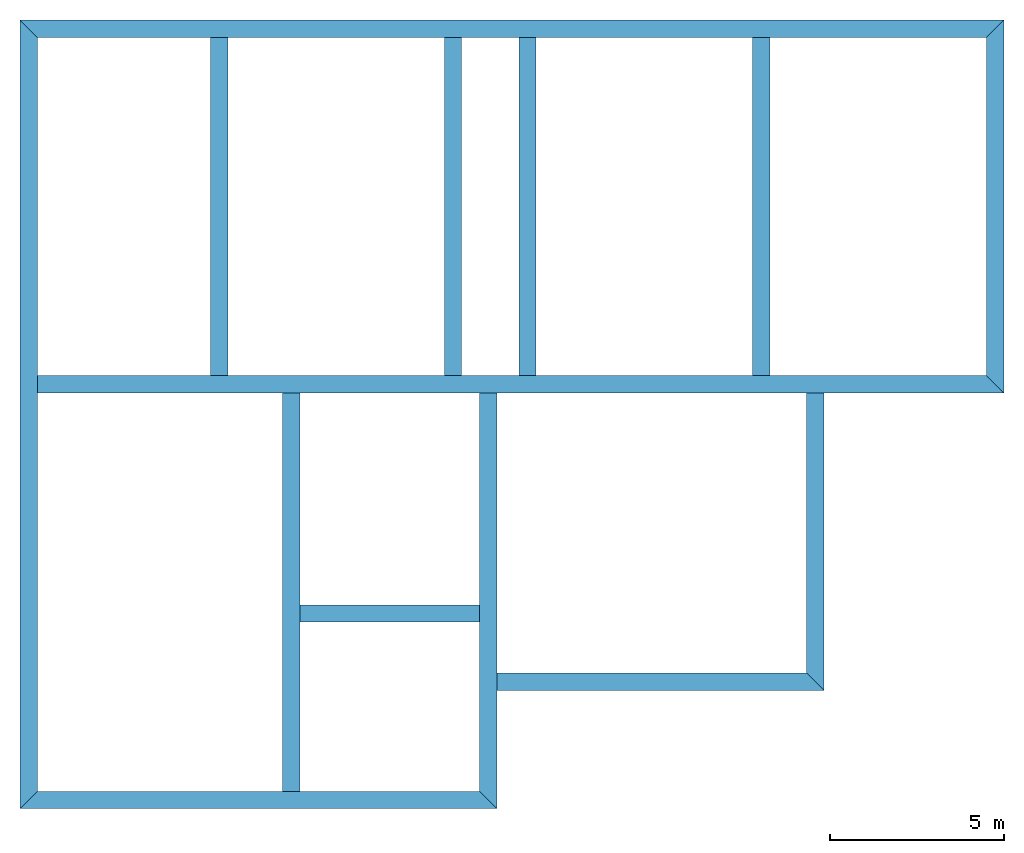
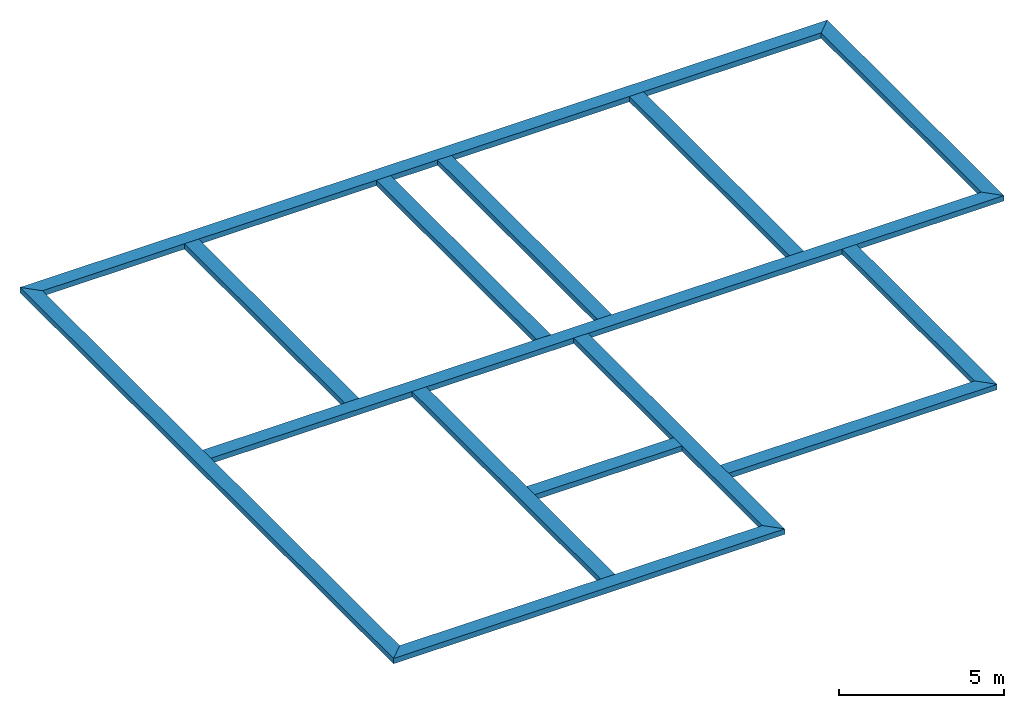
# One storey: 14 walls.
"""IFC2X3 building model written with IfcOpenShell, lengths in metres."""

from ifc_helpers import new_model, entity, si_unit, converted_unit, derived_unit, money_unit, direction, frame, origin_with_axes, place, context, subcontext, project, spatial, polyline, outline, extrude, material, layer, layer_set, layer_usage, type_object, element, save


model = new_model("IFC2X3")

# Units and contexts
model_context = context("Model", 3, precision=1e-05, world=origin_with_axes(), true_north=direction((0.0, 1.0)))
body_context = subcontext(model_context, "Body", "Model", "MODEL_VIEW")
ifc_project = project(units=[si_unit("LENGTHUNIT", "METRE"), si_unit("AREAUNIT", "SQUARE_METRE"), si_unit("VOLUMEUNIT", "CUBIC_METRE"), converted_unit("PLANEANGLEUNIT", "DEGREE", entity("IfcPlaneAngleMeasure", 0.0174532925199), si_unit("PLANEANGLEUNIT", "RADIAN"), dimensions=[0, 0, 0, 0, 0, 0, 0]), money_unit("CHF"), converted_unit("TIMEUNIT", "Year", entity("IfcTimeMeasure", 31556926.0), si_unit("TIMEUNIT", "SECOND"), dimensions=[0, 0, 1, 0, 0, 0, 0]), si_unit("MASSUNIT", "GRAM", prefix="KILO"), si_unit("THERMODYNAMICTEMPERATUREUNIT", "DEGREE_CELSIUS"), si_unit("LUMINOUSINTENSITYUNIT", "LUMEN"), si_unit("ENERGYUNIT", "JOULE", prefix="MEGA"), derived_unit("THERMALCONDUCTANCEUNIT", [(si_unit("POWERUNIT", "WATT"), 1), (si_unit("LENGTHUNIT", "METRE"), -1), (si_unit("THERMODYNAMICTEMPERATUREUNIT", "KELVIN"), -1)]), derived_unit("SPECIFICHEATCAPACITYUNIT", [(si_unit("ENERGYUNIT", "JOULE"), 1), (si_unit("MASSUNIT", "GRAM", prefix="KILO"), -1), (si_unit("THERMODYNAMICTEMPERATUREUNIT", "KELVIN"), -1)]), derived_unit("MASSDENSITYUNIT", [(si_unit("MASSUNIT", "GRAM", prefix="KILO"), 1), (si_unit("VOLUMEUNIT", "CUBIC_METRE"), -1)])], contexts=[model_context])

# Site, building, storey
site_placement = place(None, origin_with_axes())
site = spatial("IfcSite", under=ifc_project, at=site_placement, Name="Site", CompositionType="ELEMENT")
building_placement = place(site_placement, origin_with_axes())
building = spatial("IfcBuilding", under=site, at=building_placement, Name="Bâtiment", CompositionType="ELEMENT")
storey_placement = place(building_placement, frame((0.0, 0.0, -0.73), z_axis=(0.0, 0.0, 1.0), x_axis=(1.0, 0.0, 0.0)))
storey = spatial("IfcBuildingStorey", under=building, at=storey_placement, Name="Fondations", CompositionType="ELEMENT", Elevation=-0.73)

# Walls
ifc_material = material(Name="Béton armé (Coulé)")
ifc_layer = layer(ifc_material, 0.5, ventilated="UNKNOWN")
ifc_layer_set = layer_set([ifc_layer], Name="Béton armé (Coulé) 0.5")
ifc_layer_usage_1 = layer_usage(ifc_layer_set, "AXIS2", "POSITIVE", -0.25)
wall_type = type_object("IfcWallType", Name="Béton armé (Coulé) 500", PredefinedType="NOTDEFINED")
wall_1_placement = place(storey_placement, frame((11.1494697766, 25.2201256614, 0.0), z_axis=(0.0, 0.0, 1.0), x_axis=(1.0, 0.0, 0.0)))
element("IfcWallStandardCase", 1, at=wall_1_placement, inside=storey, type_object=wall_type, material=ifc_layer_usage_1, Name="MUR_EXT-001", context=body_context, shape_type="SweptSolid", body=[
    extrude(outline(polyline([(0.25, -0.25), (27.52, -0.25), (28.02, 0.25), (-0.25, 0.25), (0.25, -0.25)])), origin_with_axes(), (0.0, 0.0, 1.0), 0.2),
])
ifc_layer_usage_2 = layer_usage(ifc_layer_set, "AXIS2", "POSITIVE", -0.25)
wall_2_placement = place(storey_placement, frame((38.9194697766, 25.2201256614, 0.0), z_axis=(0.0, 0.0, 1.0), x_axis=(0.0, -1.0, 0.0)))
element("IfcWallStandardCase", 2, at=wall_2_placement, inside=storey, type_object=wall_type, material=ifc_layer_usage_2, Name="MUR_EXT-002", context=body_context, shape_type="SweptSolid", body=[
    extrude(outline(polyline([(0.25, -0.25), (9.97012566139, -0.25), (10.4701256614, 0.25), (-0.25, 0.25), (0.25, -0.25)])), origin_with_axes(), (0.0, 0.0, 1.0), 0.2),
])
ifc_layer_usage_3 = layer_usage(ifc_layer_set, "AXIS2", "POSITIVE", -0.25)
wall_3_placement = place(storey_placement, frame((38.9194697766, 15.0, 0.0), z_axis=(0.0, 0.0, 1.0), x_axis=(-1.0, 0.0, 0.0)))
element("IfcWallStandardCase", 3, at=wall_3_placement, inside=storey, type_object=wall_type, material=ifc_layer_usage_3, Name="MUR_EXT-003", context=body_context, shape_type="SweptSolid", body=[
    extrude(outline(polyline([(0.25, -0.25), (27.52, -0.25), (27.52, 0.25), (-0.25, 0.25), (0.25, -0.25)])), origin_with_axes(), (0.0, 0.0, 1.0), 0.2),
])
ifc_layer_usage_4 = layer_usage(ifc_layer_set, "AXIS2", "POSITIVE", -0.25)
wall_4_placement = place(storey_placement, frame((33.7494697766, 15.0, 0.0), z_axis=(0.0, 0.0, 1.0), x_axis=(0.0, -1.0, 0.0)))
element("IfcWallStandardCase", 4, at=wall_4_placement, inside=storey, type_object=wall_type, material=ifc_layer_usage_4, Name="MUR_EXT-004", context=body_context, shape_type="SweptSolid", body=[
    extrude(outline(polyline([(0.25, -0.25), (8.28987433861, -0.25), (8.78987433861, 0.25), (0.25, 0.25), (0.25, -0.25)])), origin_with_axes(), (0.0, 0.0, 1.0), 0.2),
])
ifc_layer_usage_5 = layer_usage(ifc_layer_set, "AXIS2", "POSITIVE", -0.25)
wall_5_placement = place(storey_placement, frame((33.7494697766, 6.46012566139, 0.0), z_axis=(0.0, 0.0, 1.0), x_axis=(-1.0, 0.0, 0.0)))
element("IfcWallStandardCase", 5, at=wall_5_placement, inside=storey, type_object=wall_type, material=ifc_layer_usage_5, Name="MUR_EXT-005", context=body_context, shape_type="SweptSolid", body=[
    extrude(outline(polyline([(0.25, -0.25), (9.15, -0.25), (9.15, 0.25), (-0.25, 0.25), (0.25, -0.25)])), origin_with_axes(), (0.0, 0.0, 1.0), 0.2),
])
ifc_layer_usage_6 = layer_usage(ifc_layer_set, "AXIS2", "POSITIVE", -0.25)
wall_6_placement = place(storey_placement, frame((24.3494697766, 15.0, 0.0), z_axis=(0.0, 0.0, 1.0), x_axis=(0.0, -1.0, 0.0)))
element("IfcWallStandardCase", 6, at=wall_6_placement, inside=storey, type_object=wall_type, material=ifc_layer_usage_6, Name="MUR_EXT-006", context=body_context, shape_type="SweptSolid", body=[
    extrude(outline(polyline([(0.25, -0.25), (11.6898344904, -0.25), (12.1898344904, 0.25), (0.25, 0.25), (0.25, -0.25)])), origin_with_axes(), (0.0, 0.0, 1.0), 0.2),
])
ifc_layer_usage_7 = layer_usage(ifc_layer_set, "AXIS2", "POSITIVE", -0.25)
wall_7_placement = place(storey_placement, frame((24.3494697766, 3.06016550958, 0.0), z_axis=(0.0, 0.0, 1.0), x_axis=(-1.0, 0.0, 0.0)))
element("IfcWallStandardCase", 7, at=wall_7_placement, inside=storey, type_object=wall_type, material=ifc_layer_usage_7, Name="MUR_EXT-007", context=body_context, shape_type="SweptSolid", body=[
    extrude(outline(polyline([(0.25, -0.25), (12.95, -0.25), (13.45, 0.25), (-0.25, 0.25), (0.25, -0.25)])), origin_with_axes(), (0.0, 0.0, 1.0), 0.2),
])
ifc_layer_usage_8 = layer_usage(ifc_layer_set, "AXIS2", "POSITIVE", -0.25)
wall_8_placement = place(storey_placement, frame((11.1494697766, 3.06016550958, 0.0), z_axis=(0.0, 0.0, 1.0), x_axis=(0.0, 1.0, 0.0)))
element("IfcWallStandardCase", 8, at=wall_8_placement, inside=storey, type_object=wall_type, material=ifc_layer_usage_8, Name="MUR_EXT-008", context=body_context, shape_type="SweptSolid", body=[
    extrude(outline(polyline([(0.25, -0.25), (21.9099601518, -0.25), (22.4099601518, 0.25), (-0.25, 0.25), (0.25, -0.25)])), origin_with_axes(), (0.0, 0.0, 1.0), 0.2),
])
ifc_layer_usage_9 = layer_usage(ifc_layer_set, "AXIS2", "POSITIVE", -0.25)
wall_9_placement = place(storey_placement, frame((18.6894697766, 3.06016550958, 0.0), z_axis=(0.0, 0.0, 1.0), x_axis=(0.0, 1.0, 0.0)))
element("IfcWallStandardCase", 9, at=wall_9_placement, inside=storey, type_object=wall_type, material=ifc_layer_usage_9, Name="MUR_EXT-007", context=body_context, shape_type="SweptSolid", body=[
    extrude(outline(polyline([(0.25, -0.25), (11.6898344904, -0.25), (11.6898344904, 0.25), (0.25, 0.25), (0.25, -0.25)])), origin_with_axes(), (0.0, 0.0, 1.0), 0.2),
])
ifc_layer_usage_10 = layer_usage(ifc_layer_set, "AXIS2", "POSITIVE", -0.25)
wall_10_placement = place(storey_placement, frame((16.6194697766, 25.2201256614, 0.0), z_axis=(0.0, 0.0, 1.0), x_axis=(0.0, -1.0, 0.0)))
element("IfcWallStandardCase", 10, at=wall_10_placement, inside=storey, type_object=wall_type, material=ifc_layer_usage_10, Name="MUR_EXT-007", context=body_context, shape_type="SweptSolid", body=[
    extrude(outline(polyline([(0.25, -0.25), (9.97012566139, -0.25), (9.97012566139, 0.25), (0.25, 0.25), (0.25, -0.25)])), origin_with_axes(), (0.0, 0.0, 1.0), 0.2),
])
ifc_layer_usage_11 = layer_usage(ifc_layer_set, "AXIS2", "POSITIVE", -0.25)
wall_11_placement = place(storey_placement, frame((23.3394697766, 25.2201256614, 0.0), z_axis=(0.0, 0.0, 1.0), x_axis=(0.0, -1.0, 0.0)))
element("IfcWallStandardCase", 11, at=wall_11_placement, inside=storey, type_object=wall_type, material=ifc_layer_usage_11, Name="MUR_EXT-007", context=body_context, shape_type="SweptSolid", body=[
    extrude(outline(polyline([(0.25, -0.25), (9.97012566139, -0.25), (9.97012566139, 0.25), (0.25, 0.25), (0.25, -0.25)])), origin_with_axes(), (0.0, 0.0, 1.0), 0.2),
])
ifc_layer_usage_12 = layer_usage(ifc_layer_set, "AXIS2", "POSITIVE", -0.25)
wall_12_placement = place(storey_placement, frame((25.4794697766, 25.2201256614, 0.0), z_axis=(0.0, 0.0, 1.0), x_axis=(0.0, -1.0, 0.0)))
element("IfcWallStandardCase", 12, at=wall_12_placement, inside=storey, type_object=wall_type, material=ifc_layer_usage_12, Name="MUR_EXT-007", context=body_context, shape_type="SweptSolid", body=[
    extrude(outline(polyline([(0.25, -0.25), (9.97012566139, -0.25), (9.97012566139, 0.25), (0.25, 0.25), (0.25, -0.25)])), origin_with_axes(), (0.0, 0.0, 1.0), 0.2),
])
ifc_layer_usage_13 = layer_usage(ifc_layer_set, "AXIS2", "POSITIVE", -0.25)
wall_13_placement = place(storey_placement, frame((32.1994697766, 25.2201256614, 0.0), z_axis=(0.0, 0.0, 1.0), x_axis=(0.0, -1.0, 0.0)))
element("IfcWallStandardCase", 13, at=wall_13_placement, inside=storey, type_object=wall_type, material=ifc_layer_usage_13, Name="MUR_EXT-007", context=body_context, shape_type="SweptSolid", body=[
    extrude(outline(polyline([(0.25, -0.25), (9.97012566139, -0.25), (9.97012566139, 0.25), (0.25, 0.25), (0.25, -0.25)])), origin_with_axes(), (0.0, 0.0, 1.0), 0.2),
])
ifc_layer_usage_14 = layer_usage(ifc_layer_set, "AXIS2", "POSITIVE", -0.25)
wall_14_placement = place(storey_placement, frame((18.6894697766, 8.42012566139, 0.0), z_axis=(0.0, 0.0, 1.0), x_axis=(1.0, 0.0, 0.0)))
element("IfcWallStandardCase", 14, at=wall_14_placement, inside=storey, type_object=wall_type, material=ifc_layer_usage_14, Name="MUR_EXT-007", context=body_context, shape_type="SweptSolid", body=[
    extrude(outline(polyline([(0.25, -0.25), (5.41, -0.25), (5.41, 0.25), (0.25, 0.25), (0.25, -0.25)])), origin_with_axes(), (0.0, 0.0, 1.0), 0.2),
])

save(model, "model.ifc")
